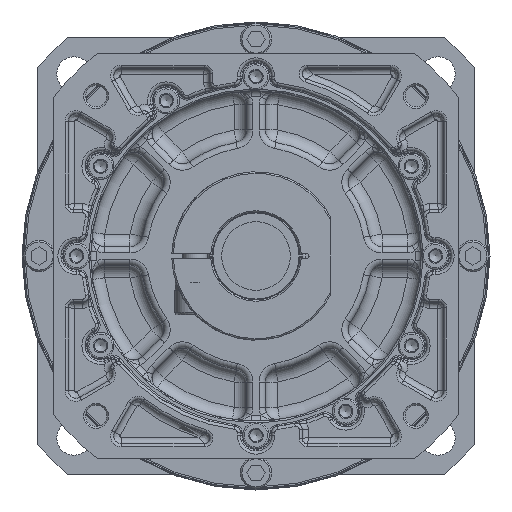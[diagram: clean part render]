
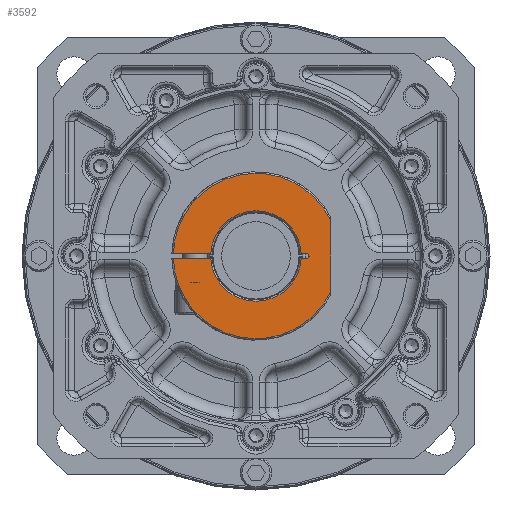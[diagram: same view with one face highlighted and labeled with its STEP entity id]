
A CAD part, left-side view. The second image highlights one B-rep face of the part: STEP entity #3592.
In plain terms, the highlighted planar face has unit normal (-1, 0, 0).
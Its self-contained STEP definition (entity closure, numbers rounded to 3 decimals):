
#1409=PLANE('',#19512);
#2278=CIRCLE('',#19494,0.75);
#2287=CIRCLE('',#19508,14.5);
#2288=CIRCLE('',#19509,26.5);
#2289=CIRCLE('',#19510,26.5);
#2290=CIRCLE('',#19511,14.5);
#3592=ADVANCED_FACE('',(#5200),#1409,.T.);
#5200=FACE_OUTER_BOUND('',#6259,.T.);
#6259=EDGE_LOOP('',(#8171,#8172,#8173,#8174,#8175,#8176,#8177,#8178,#8179,
#8180));
#8171=ORIENTED_EDGE('',*,*,#14966,.T.);
#8172=ORIENTED_EDGE('',*,*,#14983,.T.);
#8173=ORIENTED_EDGE('',*,*,#14973,.T.);
#8174=ORIENTED_EDGE('',*,*,#14984,.T.);
#8175=ORIENTED_EDGE('',*,*,#14943,.T.);
#8176=ORIENTED_EDGE('',*,*,#14985,.T.);
#8177=ORIENTED_EDGE('',*,*,#14949,.T.);
#8178=ORIENTED_EDGE('',*,*,#14986,.T.);
#8179=ORIENTED_EDGE('',*,*,#14959,.T.);
#8180=ORIENTED_EDGE('',*,*,#14961,.F.);
#13353=VERTEX_POINT('',#27996);
#13354=VERTEX_POINT('',#27998);
#13359=VERTEX_POINT('',#28033);
#13360=VERTEX_POINT('',#28035);
#13366=VERTEX_POINT('',#28085);
#13367=VERTEX_POINT('',#28087);
#13368=VERTEX_POINT('',#28094);
#13372=VERTEX_POINT('',#28106);
#13377=VERTEX_POINT('',#28124);
#13378=VERTEX_POINT('',#28125);
#14943=EDGE_CURVE('',#13354,#13353,#17549,.T.);
#14949=EDGE_CURVE('',#13360,#13359,#17552,.T.);
#14959=EDGE_CURVE('',#13367,#13366,#17556,.T.);
#14961=EDGE_CURVE('',#13368,#13366,#2278,.T.);
#14966=EDGE_CURVE('',#13368,#13372,#17559,.T.);
#14973=EDGE_CURVE('',#13377,#13378,#17562,.T.);
#14983=EDGE_CURVE('',#13372,#13377,#2287,.T.);
#14984=EDGE_CURVE('',#13378,#13354,#2288,.T.);
#14985=EDGE_CURVE('',#13353,#13360,#2289,.T.);
#14986=EDGE_CURVE('',#13359,#13367,#2290,.T.);
#17549=LINE('',#27997,#18516);
#17552=LINE('',#28034,#18519);
#17556=LINE('',#28086,#18523);
#17559=LINE('',#28107,#18526);
#17562=LINE('',#28123,#18529);
#18516=VECTOR('',#21972,1.);
#18519=VECTOR('',#21977,1.);
#18523=VECTOR('',#21991,1.);
#18526=VECTOR('',#22002,1.);
#18529=VECTOR('',#22015,1.);
#19494=AXIS2_PLACEMENT_3D('',#28093,#21994,#21995);
#19508=AXIS2_PLACEMENT_3D('',#28175,#22029,#22030);
#19509=AXIS2_PLACEMENT_3D('',#28176,#22031,#22032);
#19510=AXIS2_PLACEMENT_3D('',#28177,#22033,#22034);
#19511=AXIS2_PLACEMENT_3D('',#28178,#22035,#22036);
#19512=AXIS2_PLACEMENT_3D('',#28179,#22037,#22038);
#21972=DIRECTION('',(0.,0.,1.));
#21977=DIRECTION('',(0.,-1.,0.));
#21991=DIRECTION('',(0.,-1.,0.));
#21994=DIRECTION('',(-1.,0.,0.));
#21995=DIRECTION('',(0.,0.,-1.));
#22002=DIRECTION('',(0.,1.,0.));
#22015=DIRECTION('',(0.,1.,0.));
#22029=DIRECTION('',(1.,0.,0.));
#22030=DIRECTION('',(0.,0.,-1.));
#22031=DIRECTION('',(-1.,0.,0.));
#22032=DIRECTION('',(0.,0.,-1.));
#22033=DIRECTION('',(-1.,0.,0.));
#22034=DIRECTION('',(0.,0.,-1.));
#22035=DIRECTION('',(1.,0.,0.));
#22036=DIRECTION('',(0.,0.,-1.));
#22037=DIRECTION('',(-1.,0.,0.));
#22038=DIRECTION('',(0.,0.,1.));
#27996=CARTESIAN_POINT('',(-180.,-24.,11.236));
#27997=CARTESIAN_POINT('',(-180.,-24.,-12.369));
#27998=CARTESIAN_POINT('',(-180.,-24.,-11.236));
#28033=CARTESIAN_POINT('',(-180.,14.481,0.75));
#28034=CARTESIAN_POINT('',(-180.,26.99,0.75));
#28035=CARTESIAN_POINT('',(-180.,26.489,0.75));
#28085=CARTESIAN_POINT('',(-180.,-16.25,0.75));
#28086=CARTESIAN_POINT('',(-180.,-13.98,0.75));
#28087=CARTESIAN_POINT('',(-180.,-14.481,0.75));
#28093=CARTESIAN_POINT('',(-180.,-16.25,0.));
#28094=CARTESIAN_POINT('',(-180.,-16.25,-0.75));
#28106=CARTESIAN_POINT('',(-180.,-14.481,-0.75));
#28107=CARTESIAN_POINT('',(-180.,-16.25,-0.75));
#28123=CARTESIAN_POINT('',(-180.,13.98,-0.75));
#28124=CARTESIAN_POINT('',(-180.,14.481,-0.75));
#28125=CARTESIAN_POINT('',(-180.,26.489,-0.75));
#28175=CARTESIAN_POINT('',(-180.,0.,0.));
#28176=CARTESIAN_POINT('',(-180.,0.,0.));
#28177=CARTESIAN_POINT('',(-180.,0.,0.));
#28178=CARTESIAN_POINT('',(-180.,0.,0.));
#28179=CARTESIAN_POINT('',(-180.,0.,0.));
